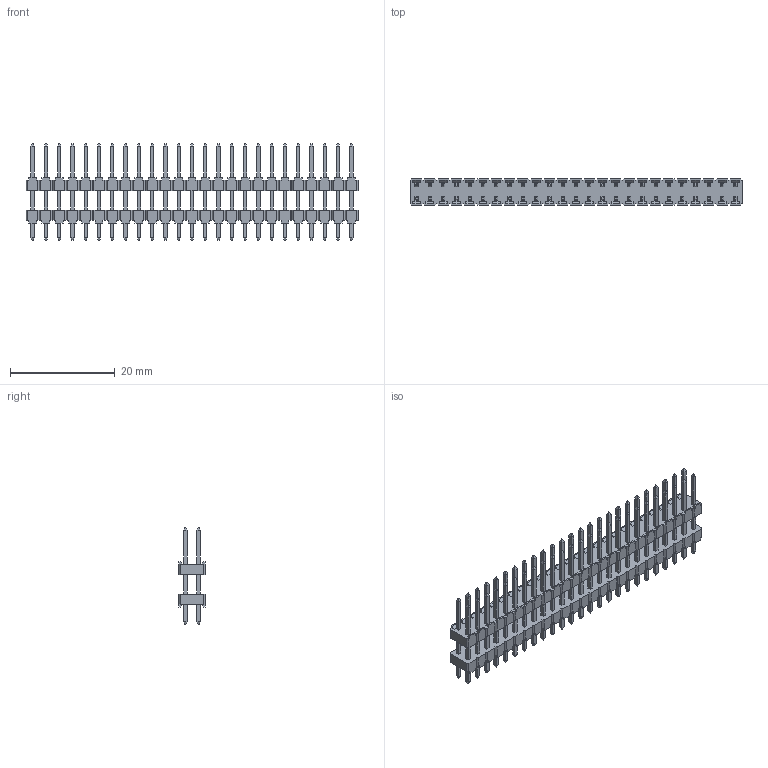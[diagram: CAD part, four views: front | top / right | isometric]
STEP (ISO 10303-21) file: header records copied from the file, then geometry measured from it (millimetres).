
FILE_DESCRIPTION(/* description */ (''),/* implementation_level */ '2;1');
FILE_NAME(/* name */ '961450-8040304-XX',/* time_stamp */ '2007-06-14T19:37:05+02:00',/* author */ (''),/* organization */ (''),/* preprocessor_version */ 'ST-DEVELOPER v9',/* originating_system */ 'UGS - NX 3.0',/* authorisation */ '');
FILE_SCHEMA (('AUTOMOTIVE_DESIGN { 1 0 10303 214 1 1 1 1 }'));
Length unit declared in the file: millimetre
Products named in the file (1): 961450-8040304-XX
Bounding box: 63.5 x 5 x 18.5 mm (x, y, z)
Volume: 1570.9 mm3; surface area: 3731.7 mm2
Topology: 1 solids, 1 shells, 1912 faces, 5024 edges, 3216 vertices
Faces by surface type: plane 1912
Entity records: 57328 total; most frequent: CARTESIAN_POINT 10153, ORIENTED_EDGE 10048, DIRECTION 8850, EDGE_CURVE 5024, LINE 5024, VECTOR 5024, VERTEX_POINT 3216, EDGE_LOOP 2112
